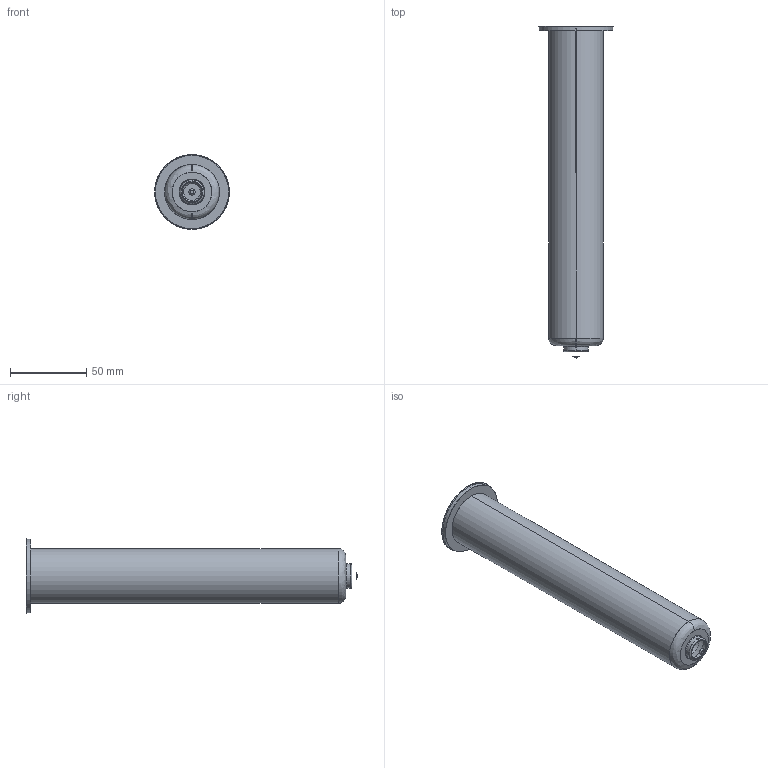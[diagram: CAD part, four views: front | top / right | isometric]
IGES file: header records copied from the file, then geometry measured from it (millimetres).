
Start section: SolidWorks IGES file using analytic representation for surfaces
Global section: file name: C:\Documents and Settings\ws-20\Desktop\TEM\Sede UGEP5005-M-A C-214 L-234 Ød-2.0.IGS; native system: SolidWorks 2012; preprocessor: SolidWorks 2012; author: ws-20; date: 120426.142605; units: millimetre
Bounding box: 49 x 217.54 x 49 mm (x, y, z)
Surface area: 27573.2 mm2 (no closed solid volume)
Topology: 0 solids, 0 shells, 25 faces, 436 edges, 436 vertices
Faces by surface type: revolution 16, bspline 9
